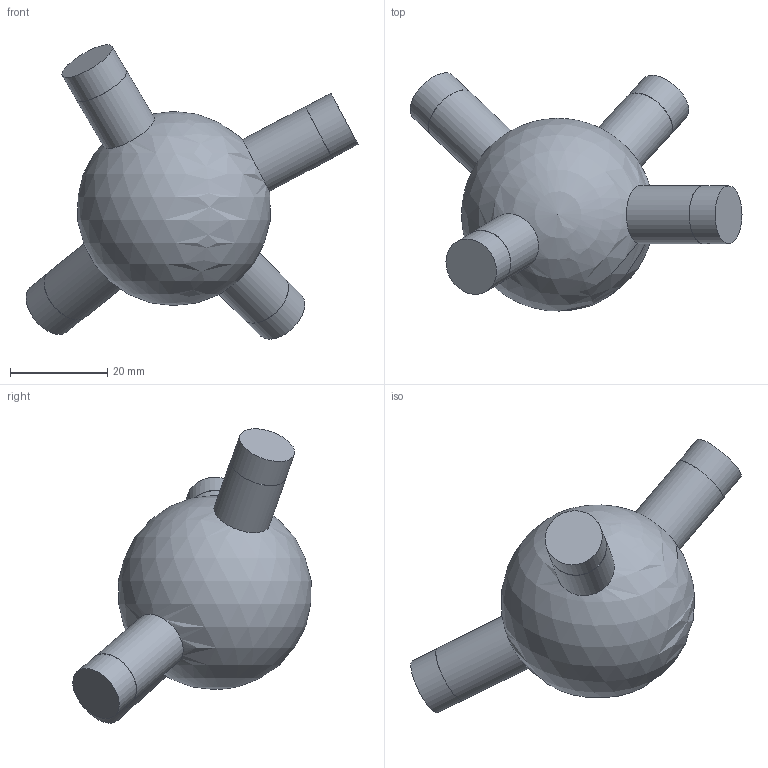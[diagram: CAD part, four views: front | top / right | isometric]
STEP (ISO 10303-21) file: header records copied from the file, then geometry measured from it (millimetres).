
FILE_DESCRIPTION(('Open CASCADE Model'),'2;1');
FILE_NAME('Open CASCADE Shape Model','2026-10-21T12:47:57',('Author'),( 'Open CASCADE'),'Open CASCADE STEP processor 7.9','Open CASCADE 7.9' ,'Unknown');
FILE_SCHEMA(('AUTOMOTIVE_DESIGN { 1 0 10303 214 1 1 1 1 }'));
Length unit declared in the file: millimetre
Products named in the file (1): Open CASCADE STEP translator 7.9 134
Bounding box: 68.39 x 49.1 x 60.66 mm (x, y, z)
Volume: 42391.4 mm3; surface area: 8053.7 mm2
Topology: 1 solids, 1 shells, 17 faces, 29 edges, 20 vertices
Faces by surface type: cylinder 8, plane 8, sphere 1
Full cylindrical faces by diameter (mm): 11.9 x4, 12 x4
Entity records: 1024 total; most frequent: CARTESIAN_POINT 370, DIRECTION 134, ORIENTED_EDGE 56, PCURVE 56, DEFINITIONAL_REPRESENTATION 56, LINE 46, VECTOR 46, AXIS2_PLACEMENT_3D 38
